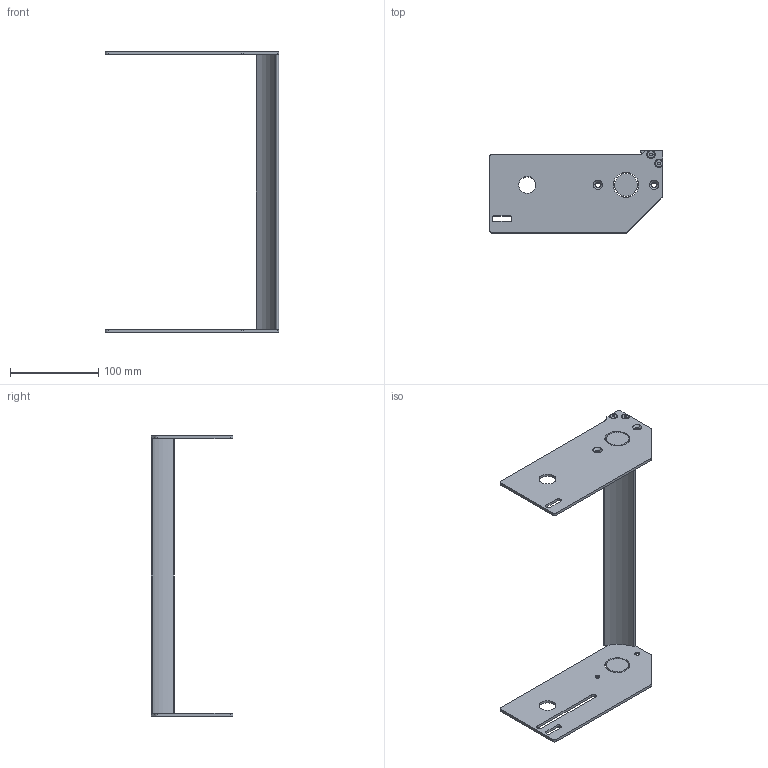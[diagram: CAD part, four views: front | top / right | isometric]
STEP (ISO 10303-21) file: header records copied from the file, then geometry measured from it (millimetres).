
FILE_DESCRIPTION((''),'2;1');
FILE_NAME('27M3301-08_ASM','2018-01-16T',('james.horst'),(''),'PRO/ENGINEER BY PARAMETRIC TECHNOLOGY CORPORATION, 2012420','PRO/ENGINEER BY PARAMETRIC TECHNOLOGY CORPORATION, 2012420','');
FILE_SCHEMA(('CONFIG_CONTROL_DESIGN'));
Length unit declared in the file: inch
Products named in the file (7): 350539-12; 350538_1; 350537_1; 9304XXM_930410M_1; ASM0002_ASM_1_ASM; 351040-08_ASM_1_ASM; 27M3301-08_ASM
Assembly tree (9 placements, depth 4):
  27M3301-08_ASM
    351040-08_ASM_1_ASM
      ASM0002_ASM_1_ASM
        350539-12
        350538_1
        350537_1
        9304XXM_930410M_1  x4
Bounding box: 196.06 x 92.74 x 317.14 mm (x, y, z)
Volume: 187397.7 mm3; surface area: 105051.9 mm2
Topology: 7 solids, 11 shells, 227 faces, 565 edges, 356 vertices
Faces by surface type: cylinder 87, plane 80, cone 60
Entity records: 5369 total; most frequent: CARTESIAN_POINT 977, DIRECTION 968, ORIENTED_EDGE 832, EDGE_CURVE 424, AXIS2_PLACEMENT_3D 377, VERTEX_POINT 278, VECTOR 214, LINE 214
